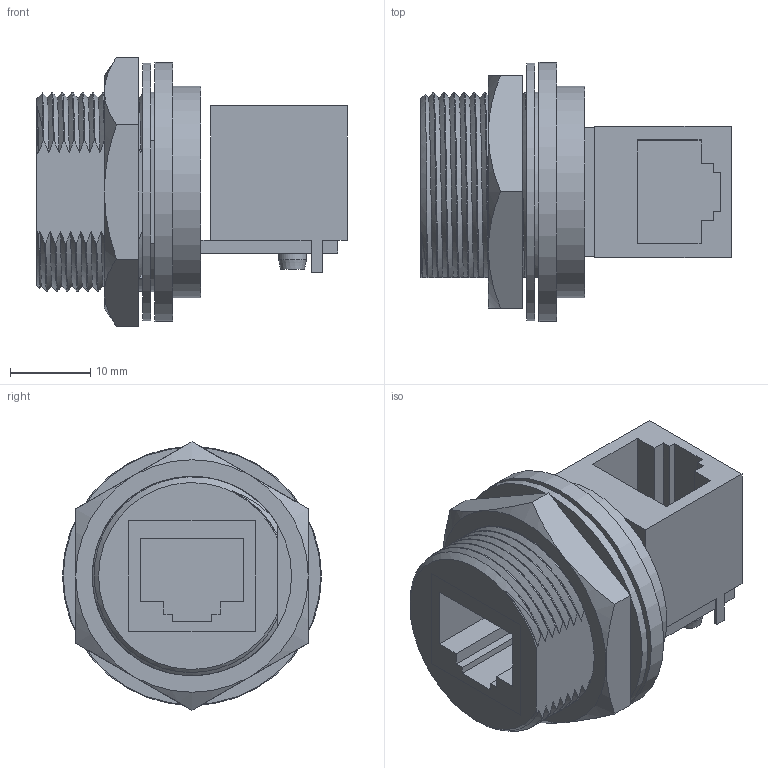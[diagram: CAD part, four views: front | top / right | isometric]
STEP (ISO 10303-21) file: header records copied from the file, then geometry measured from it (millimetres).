
FILE_DESCRIPTION(/* description */ (''),/* implementation_level */ '2;1');
FILE_NAME(/* name */ 'RJ45D-P3CRJ.stp',/* time_stamp */ '2026-04-08T16:53:58+09:00',/* author */ ('CS-05'),/* organization */ (''),/* preprocessor_version */ 'ST-DEVELOPER v19.2',/* originating_system */ 'Autodesk Inventor 2023',/* authorisation */ '');
FILE_SCHEMA (('AUTOMOTIVE_DESIGN { 1 0 10303 214 3 1 1 }'));
Length unit declared in the file: millimetre
Products named in the file (4): TB-009_RJ45D-P3CRJ_SD; TB-009_RJ45D-P3CRJ_SD1; TB-009_RJ45D-P3CRJ_SD2; TB-009_RJ45D-P3CRJ_SD3
Assembly tree (3 placements, depth 2):
  TB-009_RJ45D-P3CRJ_SD
    TB-009_RJ45D-P3CRJ_SD1
    TB-009_RJ45D-P3CRJ_SD2
    TB-009_RJ45D-P3CRJ_SD3
Bounding box: 38.6 x 32.2 x 33.37 mm (x, y, z)
Volume: 14360.6 mm3; surface area: 8390.4 mm2
Topology: 3 solids, 3 shells, 123 faces, 317 edges, 208 vertices
Faces by surface type: plane 72, bspline 24, cylinder 18, cone 9
Full cylindrical faces by diameter (mm): 3.464 x2, 24.76 x2, 26.3 x1, 32 x1, 32.2 x1
Entity records: 6143 total; most frequent: CARTESIAN_POINT 3229, ORIENTED_EDGE 634, DIRECTION 458, EDGE_CURVE 317, VERTEX_POINT 208, LINE 196, VECTOR 196, EDGE_LOOP 135
